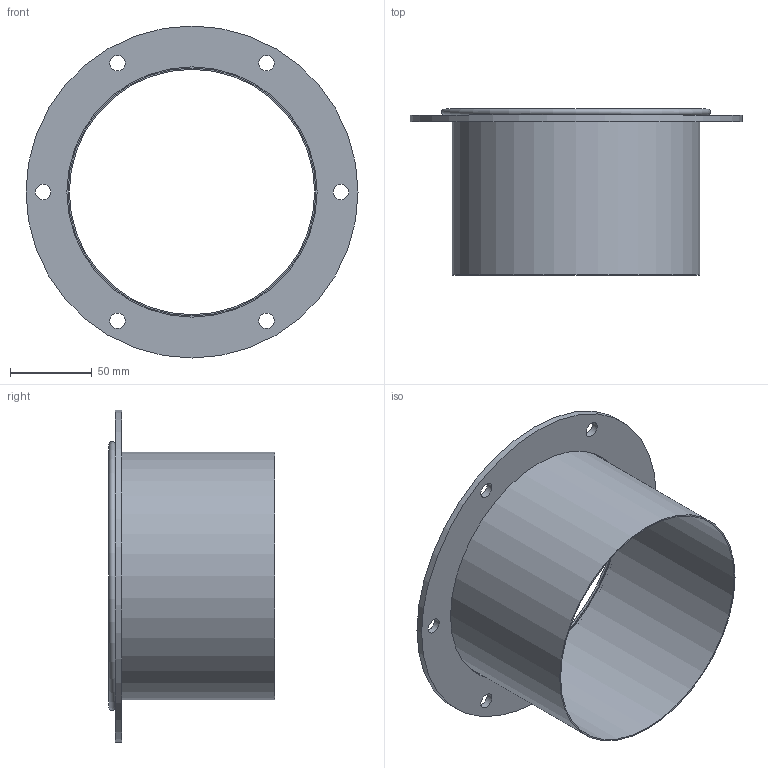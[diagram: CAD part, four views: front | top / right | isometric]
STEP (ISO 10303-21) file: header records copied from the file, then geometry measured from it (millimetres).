
FILE_DESCRIPTION(/* description */ (''),/* implementation_level */ '2;1');
FILE_NAME(/* name */ 'METU_AA124-41B_150_L100.stp',/* time_stamp */ '2018-10-10T11:36:20+02:00',/* author */ (''),/* organization */ (''),/* preprocessor_version */ 'ST-DEVELOPER v11',/* originating_system */ 'SIEMENS UGS NX 6.0',/* authorisation */ '');
FILE_SCHEMA (('CONFIG_CONTROL_DESIGN'));
Length unit declared in the file: millimetre
Products named in the file (1): garsCF17ddsr
Bounding box: 203 x 101.5 x 203 mm (x, y, z)
Volume: 104094 mm3; surface area: 147671.7 mm2
Topology: 3 solids, 3 shells, 25 faces, 55 edges, 39 vertices
Faces by surface type: cylinder 14, plane 9, torus 2
Full cylindrical faces by diameter (mm): 9.5 x6, 150 x2, 151.6 x2, 153 x1, 161.6 x2, 203 x1
Entity records: 682 total; most frequent: DIRECTION 114, CARTESIAN_POINT 88, FACE_BOUND 62, EDGE_LOOP 62, ORIENTED_EDGE 62, AXIS2_PLACEMENT_3D 57, VERTEX_POINT 31, EDGE_CURVE 31
